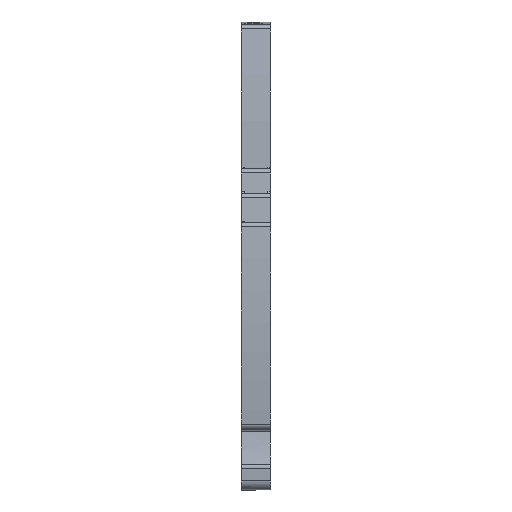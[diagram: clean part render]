
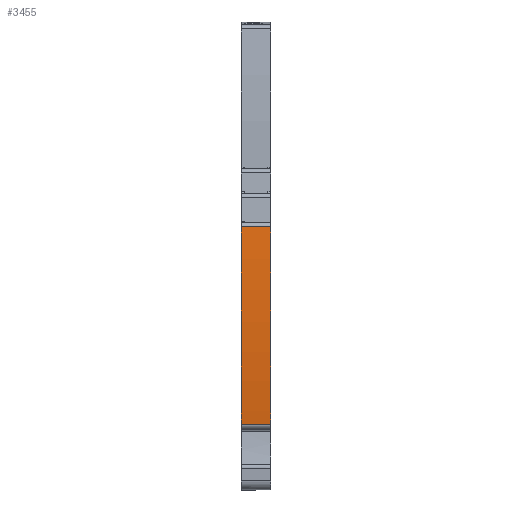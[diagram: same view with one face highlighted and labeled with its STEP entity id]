
A CAD part, front view. The second image highlights one B-rep face of the part: STEP entity #3455.
In plain terms, the highlighted cylindrical face has radius 202 mm (diameter 404 mm), a partial arc.
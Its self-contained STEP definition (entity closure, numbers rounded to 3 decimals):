
#2452=AXIS2_PLACEMENT_3D('Circle Axis2P3D',#2450,#2451,$) ;
#2459=AXIS2_PLACEMENT_3D('Circle Axis2P3D',#2457,#2458,$) ;
#2466=AXIS2_PLACEMENT_3D('Circle Axis2P3D',#2464,#2465,$) ;
#3417=AXIS2_PLACEMENT_3D('Cylinder Axis2P3D',#3414,#3415,#3416) ;
#3428=AXIS2_PLACEMENT_3D('Circle Axis2P3D',#3426,#3427,$) ;
#3435=AXIS2_PLACEMENT_3D('Circle Axis2P3D',#3433,#3434,$) ;
#3442=AXIS2_PLACEMENT_3D('Circle Axis2P3D',#3440,#3441,$) ;
#2447=CARTESIAN_POINT('Vertex',(0.,1.531,13.327)) ;
#2450=CARTESIAN_POINT('Axis2P3D Location',(0.,202.,38.15)) ;
#2454=CARTESIAN_POINT('Vertex',(0.,1.191,16.25)) ;
#2457=CARTESIAN_POINT('Axis2P3D Location',(0.,202.,38.15)) ;
#2461=CARTESIAN_POINT('Vertex',(0.,0.037,34.3)) ;
#2464=CARTESIAN_POINT('Axis2P3D Location',(0.,202.,38.15)) ;
#2468=CARTESIAN_POINT('Vertex',(0.,0.609,53.828)) ;
#3394=CARTESIAN_POINT('Line Origine',(2.39,0.609,53.828)) ;
#3398=CARTESIAN_POINT('Vertex',(6.,0.609,53.828)) ;
#3414=CARTESIAN_POINT('Axis2P3D Location',(2.55,202.,38.15)) ;
#3419=CARTESIAN_POINT('Line Origine',(12.39,1.531,13.327)) ;
#3423=CARTESIAN_POINT('Vertex',(6.,1.531,13.327)) ;
#3426=CARTESIAN_POINT('Axis2P3D Location',(6.,202.,38.15)) ;
#3430=CARTESIAN_POINT('Vertex',(6.,1.191,16.25)) ;
#3433=CARTESIAN_POINT('Axis2P3D Location',(6.,202.,38.15)) ;
#3437=CARTESIAN_POINT('Vertex',(6.,0.037,34.3)) ;
#3440=CARTESIAN_POINT('Axis2P3D Location',(6.,202.,38.15)) ;
#2451=DIRECTION('Axis2P3D Direction',(1.,0.,0.)) ;
#2458=DIRECTION('Axis2P3D Direction',(1.,0.,0.)) ;
#2465=DIRECTION('Axis2P3D Direction',(1.,0.,0.)) ;
#3395=DIRECTION('Vector Direction',(1.,0.,0.)) ;
#3415=DIRECTION('Axis2P3D Direction',(1.,0.,0.)) ;
#3416=DIRECTION('Axis2P3D XDirection',(0.,-0.997,0.078)) ;
#3420=DIRECTION('Vector Direction',(1.,0.,0.)) ;
#3427=DIRECTION('Axis2P3D Direction',(1.,0.,0.)) ;
#3434=DIRECTION('Axis2P3D Direction',(1.,0.,0.)) ;
#3441=DIRECTION('Axis2P3D Direction',(1.,0.,0.)) ;
#3396=VECTOR('Line Direction',#3395,1.) ;
#3421=VECTOR('Line Direction',#3420,1.) ;
#3446=ORIENTED_EDGE('',*,*,#3400,.T.) ;
#3447=ORIENTED_EDGE('',*,*,#2470,.T.) ;
#3448=ORIENTED_EDGE('',*,*,#2463,.T.) ;
#3449=ORIENTED_EDGE('',*,*,#2456,.T.) ;
#3450=ORIENTED_EDGE('',*,*,#3425,.F.) ;
#3451=ORIENTED_EDGE('',*,*,#3432,.F.) ;
#3452=ORIENTED_EDGE('',*,*,#3439,.F.) ;
#3453=ORIENTED_EDGE('',*,*,#3444,.F.) ;
#3455=ADVANCED_FACE('KLEMME',(#3454),#3418,.T.) ;
#2453=CIRCLE('generated circle',#2452,202.) ;
#2460=CIRCLE('generated circle',#2459,202.) ;
#2467=CIRCLE('generated circle',#2466,202.) ;
#3429=CIRCLE('generated circle',#3428,202.) ;
#3436=CIRCLE('generated circle',#3435,202.) ;
#3443=CIRCLE('generated circle',#3442,202.) ;
#3418=CYLINDRICAL_SURFACE('generated cylinder',#3417,202.) ;
#2456=EDGE_CURVE('',#2455,#2448,#2453,.T.) ;
#2463=EDGE_CURVE('',#2462,#2455,#2460,.T.) ;
#2470=EDGE_CURVE('',#2469,#2462,#2467,.T.) ;
#3400=EDGE_CURVE('',#3399,#2469,#3397,.F.) ;
#3425=EDGE_CURVE('',#3424,#2448,#3422,.F.) ;
#3432=EDGE_CURVE('',#3431,#3424,#3429,.T.) ;
#3439=EDGE_CURVE('',#3438,#3431,#3436,.T.) ;
#3444=EDGE_CURVE('',#3399,#3438,#3443,.T.) ;
#3445=EDGE_LOOP('',(#3446,#3447,#3448,#3449,#3450,#3451,#3452,#3453)) ;
#3454=FACE_OUTER_BOUND('',#3445,.T.) ;
#3397=LINE('Line',#3394,#3396) ;
#3422=LINE('Line',#3419,#3421) ;
#2448=VERTEX_POINT('',#2447) ;
#2455=VERTEX_POINT('',#2454) ;
#2462=VERTEX_POINT('',#2461) ;
#2469=VERTEX_POINT('',#2468) ;
#3399=VERTEX_POINT('',#3398) ;
#3424=VERTEX_POINT('',#3423) ;
#3431=VERTEX_POINT('',#3430) ;
#3438=VERTEX_POINT('',#3437) ;
